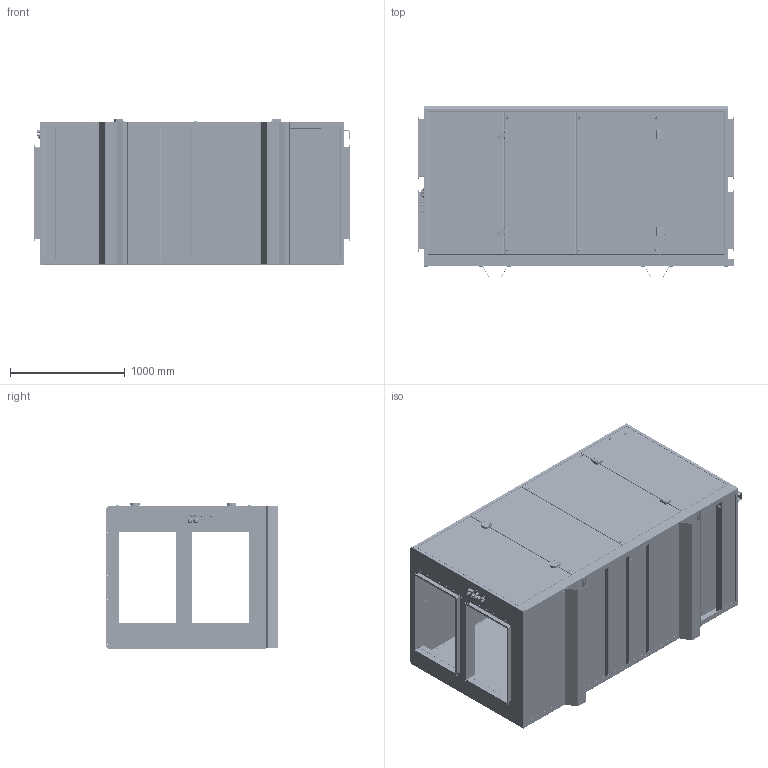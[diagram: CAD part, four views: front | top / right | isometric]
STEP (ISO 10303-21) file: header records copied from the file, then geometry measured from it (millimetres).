
FILE_DESCRIPTION (( 'STEP AP214' ), '1' );
FILE_NAME ('Comfort_5000.STEP', '2022-11-02T11:34:23', ( '' ), ( '' ), 'SwSTEP 2.0', 'SolidWorks 2021', '' );
FILE_SCHEMA (( 'AUTOMOTIVE_DESIGN' ));
Length unit declared in the file: millimetre
Products named in the file (67): Comfort_4000_bagerste_bundvange; Comfort_4000_skinne-B_bag_midterstolper; Comfort_4000_låge_hængsel_forstærkning; Comfort_5000_bagerste_bund_tværvange-1; Comfort_4000_venstre_sideplade_beklædning; Comfort_4000_bund_dækplade_C; Thorsmans_Thorsmans 20-26; Comfort_4000_toplåg_udvendig_1a2; 32mm_kondensafloeb; Comfort_4000_bund_tværvange-4; Comfort_4000_midterskinne_bag_midterstolper; 32mm_vinkel90; Comfort_4000_skinne-AA_bag_midterstolper; Comfort_4000_kondensbakke; Comfort_4000_forstærknings_skinne-BB1_bag_midterstolper; Comfort_5000; Comfort_4000_forstærknings_skinne-AA_bag_midterstolper; Comfort_4000_skinne_for_tætningsliste-1_Bag; Transportbeslag_kondensafløb; Comfort_4000_toplåg_udvendig_2a2; Comfort_4000_bund_dækplade_A; 5mm_nuts_6kantet; Comfort_4000_skinne-BB_bag_midterstolper; Comfort_5000_tværprofil_bund; Comfort_4000_l嶓e-B; Comfort_4000_skinne_for_tætningsliste-2_Bag; Comfort_4000_nederste_bakke; Comfort_4000_midterstolpe-B; Comfort_4000_gennemførings_dækplade; Comfort_4000_beklædning_midterstolpe-A; PGxx_ledningsaflastning_PG11; Comfort_4000_bund_tværvange-6; Comfort_4000_skinne_for_tætningsliste-1; Comfort_4000_skinne-C_bag_midterstolper; Comfort_4000_bund_tværvange-3; Comfort_4000_højre_sideplade_beklædning; PGxx_ledningsaflastning_PG9; Comfort_4000_skinne-A_bag_midterstolper; Comfort_4000_bund_dækplade_B2; Comfort_4000_bund_tværvange-5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
Assembly tree (130 placements, depth 4):
  Comfort_5000
    Comfort_4000_skinne_for_tætningsliste-1_Bag
    Comfort_4000_skinne_for_tætningsliste-1
    Comfort_4000_venstre_sideplade_beklædning
    Comfort_4000_venstre_sideplade
    Comfort_4000_skinne_for_tætningsliste-2_Bag
    Comfort_4000_skinne_for_tætningsliste-2
    Comfort_4000_højre_sideplade_beklædning
    Comfort_4000_højre_sideplade
    Comfort_4000_bund_dækplade_A
    Comfort_4000_bund_dækplade_B
    Comfort_4000_bund_dækplade_C
    Comfort_4000_bund_dækplade_B2
    Comfort_4000_foreste_bundvange
    Comfort_4000_bagerste_bundvange
    Comfort_4000_kondensbakke
    Comfort_4000_nederste_bakke
    Comfort_5000_bagerste_bund_tværvange-1
    Comfort_4000_bund_tværvange-2
    Comfort_4000_bund_tværvange-3
    Comfort_4000_bund_tværvange-4
    Comfort_4000_bund_tværvange-5
    Comfort_4000_bund_tværvange-6
    Comfort_5000_tværprofil_bund  x2
    Comfort_4000_bund_tværvange-6a
    Comfort_4000_toplåg_indvendig
    Comfort_4000_toplåg_udvendig_1a2
    Comfort_4000_toplåg_udvendig_2a2
    Comfort_4000_låge_hængsel_forstærkning
    Comfort_4000_beklædning_låge-A
    Comfort_4000_l嶓e-A
    DUAL-STOP_hængsel-lukning  x4
    5mm_nuts_6kantet  x19
    Comfort_4000_l嶓e-B
    Comfort_4000_beklædning_låge-B
    Nilan_logo_final_22cm
    Comfort_4000_midterstolpe_hængsel_forstærkning  x2
    Comfort_4000_skinne-B_bag_midterstolper
    Comfort_4000_skinne-A_bag_midterstolper
    Comfort_4000_midterskinne_bag_midterstolper
    Comfort_4000_midterstolpe-A
    Comfort_4000_beklædning_midterstolpe-A
    Comfort_4000_midterstolpe-B
    Comfort_4000_beklædning_midterstolpe-B
    Afstandsstykke_for_l嶓e  x14
    Comfort_4000_skinne-BB_bag_midterstolper
      Comfort_4000_skinne-BB_bag_midterstolper
      Comfort_4000_midterskinne_bag_midterstolper
      Comfort_4000_skinne-AA_bag_midterstolper
        Comfort_4000_skinne-AA_bag_midterstolper
      Comfort_4000_skinne-C_bag_midterstolper  x2
      Comfort_4000_forstærknings_skinne-AA_bag_midterstolper
      5mm_nuts_6kantet  x8
      Comfort_4000_forstærknings_skinne-BB_bag_midterstolper
      Comfort_4000_forstærknings_skinne-BB1_bag_midterstolper
      Comfort_4000_forstærknings_skinne-AA1_bag_midterstolper
    Comfort_4000_bagplade  x2
    Comfort_4000_midterskinne_bag_midterstolper_Bag
    Comfort_4000_bagplade_beklædning  x2
    32mm_kondensafloeb
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Bounding box: 2759.8 x 1500.6 x 1281.17 mm (x, y, z)
Volume: 41778637.3 mm3; surface area: 80186897.1 mm2
Topology: 136 solids, 136 shells, 9571 faces, 24872 edges, 15690 vertices
Faces by surface type: plane 4772, cylinder 3893, bspline 606, cone 158, torus 142
Entity records: 233004 total; most frequent: CARTESIAN_POINT 46895, ORIENTED_EDGE 36122, DIRECTION 35875, EDGE_CURVE 18061, AXIS2_PLACEMENT_3D 12668, VERTEX_POINT 11493, VECTOR 10539, LINE 10539
